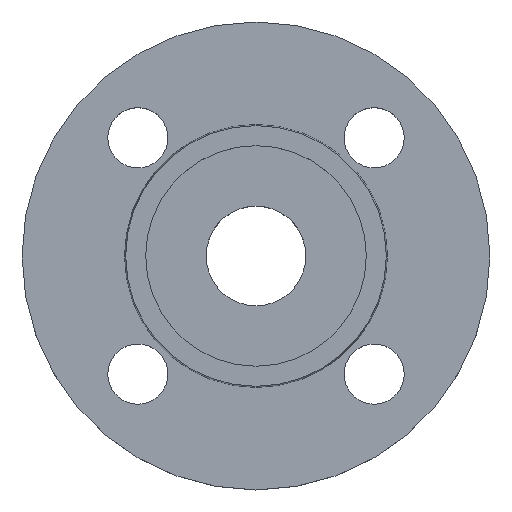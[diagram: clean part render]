
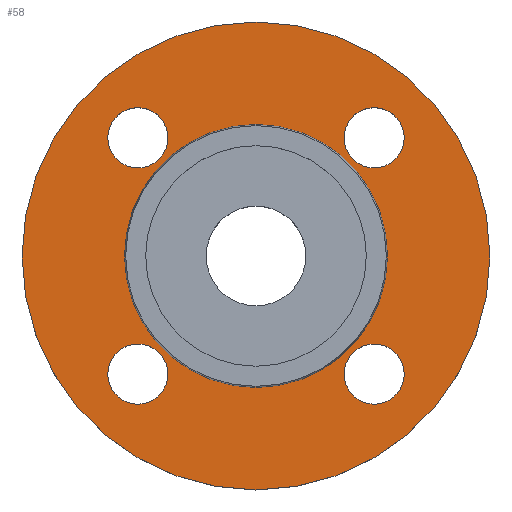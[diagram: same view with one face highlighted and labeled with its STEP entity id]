
A CAD part, top view. The second image highlights one B-rep face of the part: STEP entity #58.
In plain terms, the highlighted planar face has unit normal (0, 0, 1).
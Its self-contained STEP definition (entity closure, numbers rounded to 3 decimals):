
#3 = AXIS2_PLACEMENT_3D ( 'NONE', #309, #551, #786 ) ;
#8 = EDGE_CURVE ( 'NONE', #726, #225, #243, .T. ) ;
#9 = EDGE_LOOP ( 'NONE', ( #639, #37 ) ) ;
#12 = FACE_BOUND ( 'NONE', #343, .T. ) ;
#33 = AXIS2_PLACEMENT_3D ( 'NONE', #436, #672, #123 ) ;
#35 = CARTESIAN_POINT ( 'NONE',  ( -35.355, 35.355, -2. ) ) ;
#37 = ORIENTED_EDGE ( 'NONE', *, *, #137, .T. ) ;
#44 = ORIENTED_EDGE ( 'NONE', *, *, #502, .T. ) ;
#47 = ORIENTED_EDGE ( 'NONE', *, *, #134, .T. ) ;
#48 = DIRECTION ( 'NONE',  ( 1., 0., 0. ) ) ;
#57 = DIRECTION ( 'NONE',  ( -1., 0., 0. ) ) ;
#58 = ADVANCED_FACE ( 'NONE', ( #574, #12, #273, #521, #755, #209 ), #460, .T. ) ;
#65 = CARTESIAN_POINT ( 'NONE',  ( 26.355, -35.355, -2. ) ) ;
#75 = ORIENTED_EDGE ( 'NONE', *, *, #300, .T. ) ;
#89 = EDGE_CURVE ( 'NONE', #659, #340, #453, .T. ) ;
#90 = DIRECTION ( 'NONE',  ( 1., 0., 0. ) ) ;
#94 = VERTEX_POINT ( 'NONE', #762 ) ;
#100 = CARTESIAN_POINT ( 'NONE',  ( 35.355, 35.355, -2. ) ) ;
#105 = DIRECTION ( 'NONE',  ( 1., 0., 0. ) ) ;
#120 = DIRECTION ( 'NONE',  ( 0., 0., -1. ) ) ;
#123 = DIRECTION ( 'NONE',  ( -1., 0., 0. ) ) ;
#131 = VERTEX_POINT ( 'NONE', #709 ) ;
#134 = EDGE_CURVE ( 'NONE', #242, #774, #282, .T. ) ;
#135 = DIRECTION ( 'NONE',  ( 0., 0., -1. ) ) ;
#137 = EDGE_CURVE ( 'NONE', #340, #659, #174, .T. ) ;
#147 = DIRECTION ( 'NONE',  ( 0., 0., 1. ) ) ;
#160 = VERTEX_POINT ( 'NONE', #776 ) ;
#161 = AXIS2_PLACEMENT_3D ( 'NONE', #683, #135, #385 ) ;
#162 = CARTESIAN_POINT ( 'NONE',  ( 35.355, -35.355, -2. ) ) ;
#174 = CIRCLE ( 'NONE', #527, 9. ) ;
#179 = VERTEX_POINT ( 'NONE', #421 ) ;
#188 = DIRECTION ( 'NONE',  ( 0., 0., -1. ) ) ;
#191 = AXIS2_PLACEMENT_3D ( 'NONE', #733, #188, #439 ) ;
#197 = AXIS2_PLACEMENT_3D ( 'NONE', #35, #296, #541 ) ;
#209 = FACE_OUTER_BOUND ( 'NONE', #484, .T. ) ;
#210 = VERTEX_POINT ( 'NONE', #665 ) ;
#219 = EDGE_CURVE ( 'NONE', #160, #131, #508, .T. ) ;
#225 = VERTEX_POINT ( 'NONE', #373 ) ;
#242 = VERTEX_POINT ( 'NONE', #503 ) ;
#243 = CIRCLE ( 'NONE', #690, 70. ) ;
#245 = EDGE_CURVE ( 'NONE', #338, #210, #634, .T. ) ;
#266 = CIRCLE ( 'NONE', #702, 9. ) ;
#271 = AXIS2_PLACEMENT_3D ( 'NONE', #416, #654, #105 ) ;
#273 = FACE_BOUND ( 'NONE', #324, .T. ) ;
#282 = CIRCLE ( 'NONE', #626, 9. ) ;
#296 = DIRECTION ( 'NONE',  ( 0., 0., -1. ) ) ;
#300 = EDGE_CURVE ( 'NONE', #179, #94, #707, .T. ) ;
#309 = CARTESIAN_POINT ( 'NONE',  ( 0., 0., -2. ) ) ;
#324 = EDGE_LOOP ( 'NONE', ( #44, #75 ) ) ;
#338 = VERTEX_POINT ( 'NONE', #425 ) ;
#339 = ORIENTED_EDGE ( 'NONE', *, *, #219, .T. ) ;
#340 = VERTEX_POINT ( 'NONE', #661 ) ;
#343 = EDGE_LOOP ( 'NONE', ( #575, #357 ) ) ;
#350 = DIRECTION ( 'NONE',  ( 0., 0., -1. ) ) ;
#357 = ORIENTED_EDGE ( 'NONE', *, *, #583, .T. ) ;
#360 = CIRCLE ( 'NONE', #3, 39.353 ) ;
#366 = CARTESIAN_POINT ( 'NONE',  ( -35.355, -35.355, -2. ) ) ;
#370 = DIRECTION ( 'NONE',  ( -1., 0., 0. ) ) ;
#373 = CARTESIAN_POINT ( 'NONE',  ( 70., 0., -2. ) ) ;
#375 = CARTESIAN_POINT ( 'NONE',  ( 0., 0., -2. ) ) ;
#385 = DIRECTION ( 'NONE',  ( 1., 0., 0. ) ) ;
#391 = EDGE_CURVE ( 'NONE', #225, #726, #693, .T. ) ;
#394 = DIRECTION ( 'NONE',  ( 1., 0., 0. ) ) ;
#403 = CARTESIAN_POINT ( 'NONE',  ( 35.355, 35.355, -2. ) ) ;
#411 = DIRECTION ( 'NONE',  ( 0., 0., -1. ) ) ;
#416 = CARTESIAN_POINT ( 'NONE',  ( -35.355, 35.355, -2. ) ) ;
#421 = CARTESIAN_POINT ( 'NONE',  ( -44.355, 35.355, -2. ) ) ;
#425 = CARTESIAN_POINT ( 'NONE',  ( -26.355, -35.355, -2. ) ) ;
#426 = EDGE_CURVE ( 'NONE', #774, #242, #520, .T. ) ;
#436 = CARTESIAN_POINT ( 'NONE',  ( 0., 0., -2. ) ) ;
#439 = DIRECTION ( 'NONE',  ( 1., 0., 0. ) ) ;
#444 = CARTESIAN_POINT ( 'NONE',  ( -70., 0., -2. ) ) ;
#453 = CIRCLE ( 'NONE', #787, 9. ) ;
#460 = PLANE ( 'NONE',  #517 ) ;
#484 = EDGE_LOOP ( 'NONE', ( #621, #768 ) ) ;
#501 = CARTESIAN_POINT ( 'NONE',  ( 44.355, 35.355, -2. ) ) ;
#502 = EDGE_CURVE ( 'NONE', #94, #179, #540, .T. ) ;
#503 = CARTESIAN_POINT ( 'NONE',  ( 44.355, -35.355, -2. ) ) ;
#508 = CIRCLE ( 'NONE', #33, 39.353 ) ;
#517 = AXIS2_PLACEMENT_3D ( 'NONE', #698, #147, #394 ) ;
#520 = CIRCLE ( 'NONE', #161, 9. ) ;
#521 = FACE_BOUND ( 'NONE', #9, .T. ) ;
#522 = EDGE_LOOP ( 'NONE', ( #47, #644 ) ) ;
#527 = AXIS2_PLACEMENT_3D ( 'NONE', #100, #350, #591 ) ;
#540 = CIRCLE ( 'NONE', #197, 9. ) ;
#541 = DIRECTION ( 'NONE',  ( 1., 0., 0. ) ) ;
#551 = DIRECTION ( 'NONE',  ( 0., 0., -1. ) ) ;
#574 = FACE_BOUND ( 'NONE', #522, .T. ) ;
#575 = ORIENTED_EDGE ( 'NONE', *, *, #245, .T. ) ;
#583 = EDGE_CURVE ( 'NONE', #210, #338, #266, .T. ) ;
#590 = EDGE_CURVE ( 'NONE', #131, #160, #360, .T. ) ;
#591 = DIRECTION ( 'NONE',  ( 1., 0., 0. ) ) ;
#606 = DIRECTION ( 'NONE',  ( 0., 0., -1. ) ) ;
#615 = DIRECTION ( 'NONE',  ( 0., 0., -1. ) ) ;
#621 = ORIENTED_EDGE ( 'NONE', *, *, #391, .F. ) ;
#626 = AXIS2_PLACEMENT_3D ( 'NONE', #162, #411, #650 ) ;
#634 = CIRCLE ( 'NONE', #191, 9. ) ;
#639 = ORIENTED_EDGE ( 'NONE', *, *, #89, .T. ) ;
#641 = DIRECTION ( 'NONE',  ( 0., 0., -1. ) ) ;
#644 = ORIENTED_EDGE ( 'NONE', *, *, #426, .T. ) ;
#650 = DIRECTION ( 'NONE',  ( 1., 0., 0. ) ) ;
#654 = DIRECTION ( 'NONE',  ( 0., 0., -1. ) ) ;
#659 = VERTEX_POINT ( 'NONE', #501 ) ;
#661 = CARTESIAN_POINT ( 'NONE',  ( 26.355, 35.355, -2. ) ) ;
#665 = CARTESIAN_POINT ( 'NONE',  ( -44.355, -35.355, -2. ) ) ;
#667 = CARTESIAN_POINT ( 'NONE',  ( 0., 0., -2. ) ) ;
#672 = DIRECTION ( 'NONE',  ( 0., 0., -1. ) ) ;
#683 = CARTESIAN_POINT ( 'NONE',  ( 35.355, -35.355, -2. ) ) ;
#690 = AXIS2_PLACEMENT_3D ( 'NONE', #667, #120, #370 ) ;
#693 = CIRCLE ( 'NONE', #791, 70. ) ;
#698 = CARTESIAN_POINT ( 'NONE',  ( 39.353, 0., -2. ) ) ;
#702 = AXIS2_PLACEMENT_3D ( 'NONE', #366, #606, #48 ) ;
#707 = CIRCLE ( 'NONE', #271, 9. ) ;
#709 = CARTESIAN_POINT ( 'NONE',  ( -39.353, 0., -2. ) ) ;
#726 = VERTEX_POINT ( 'NONE', #444 ) ;
#733 = CARTESIAN_POINT ( 'NONE',  ( -35.355, -35.355, -2. ) ) ;
#755 = FACE_BOUND ( 'NONE', #799, .T. ) ;
#762 = CARTESIAN_POINT ( 'NONE',  ( -26.355, 35.355, -2. ) ) ;
#768 = ORIENTED_EDGE ( 'NONE', *, *, #8, .F. ) ;
#774 = VERTEX_POINT ( 'NONE', #65 ) ;
#776 = CARTESIAN_POINT ( 'NONE',  ( 39.353, 0., -2. ) ) ;
#782 = ORIENTED_EDGE ( 'NONE', *, *, #590, .T. ) ;
#786 = DIRECTION ( 'NONE',  ( -1., 0., 0. ) ) ;
#787 = AXIS2_PLACEMENT_3D ( 'NONE', #403, #641, #90 ) ;
#791 = AXIS2_PLACEMENT_3D ( 'NONE', #375, #615, #57 ) ;
#799 = EDGE_LOOP ( 'NONE', ( #782, #339 ) ) ;
